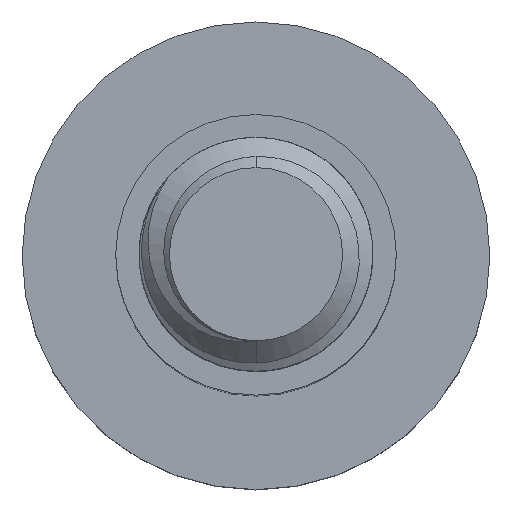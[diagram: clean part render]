
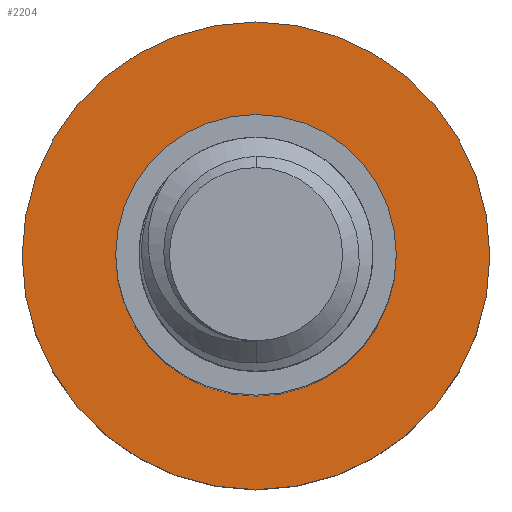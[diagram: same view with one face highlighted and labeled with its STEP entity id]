
A CAD part, top view. The second image highlights one B-rep face of the part: STEP entity #2204.
In plain terms, the highlighted planar face has unit normal (0, 0, 1).
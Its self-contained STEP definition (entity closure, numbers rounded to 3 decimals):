
#166 = CIRCLE ( 'NONE', #2971, 6. ) ;
#199 = CARTESIAN_POINT ( 'NONE',  ( 0., 0., -25. ) ) ;
#314 = CARTESIAN_POINT ( 'NONE',  ( 6., 0., -25. ) ) ;
#356 = EDGE_CURVE ( 'NONE', #3403, #755, #166, .T. ) ;
#372 = ORIENTED_EDGE ( 'NONE', *, *, #2839, .F. ) ;
#450 = VERTEX_POINT ( 'NONE', #1998 ) ;
#459 = CIRCLE ( 'NONE', #1138, 10. ) ;
#532 = FACE_OUTER_BOUND ( 'NONE', #1231, .T. ) ;
#560 = EDGE_CURVE ( 'NONE', #755, #3403, #1476, .T. ) ;
#581 = DIRECTION ( 'NONE',  ( 0., 0., -1. ) ) ;
#617 = DIRECTION ( 'NONE',  ( -1., 0., 0. ) ) ;
#684 = ORIENTED_EDGE ( 'NONE', *, *, #560, .T. ) ;
#755 = VERTEX_POINT ( 'NONE', #314 ) ;
#784 = DIRECTION ( 'NONE',  ( -1., 0., 0. ) ) ;
#858 = CARTESIAN_POINT ( 'NONE',  ( 0., 0., -25. ) ) ;
#910 = AXIS2_PLACEMENT_3D ( 'NONE', #199, #2455, #784 ) ;
#1136 = CARTESIAN_POINT ( 'NONE',  ( 0., 0., -25. ) ) ;
#1138 = AXIS2_PLACEMENT_3D ( 'NONE', #1463, #1979, #617 ) ;
#1231 = EDGE_LOOP ( 'NONE', ( #3172, #372 ) ) ;
#1288 = DIRECTION ( 'NONE',  ( 0., 0., -1. ) ) ;
#1463 = CARTESIAN_POINT ( 'NONE',  ( 0., 0., -25. ) ) ;
#1476 = CIRCLE ( 'NONE', #1927, 6. ) ;
#1555 = CARTESIAN_POINT ( 'NONE',  ( 0., 0., -25. ) ) ;
#1585 = PLANE ( 'NONE',  #910 ) ;
#1734 = DIRECTION ( 'NONE',  ( 0., 0., -1. ) ) ;
#1887 = ORIENTED_EDGE ( 'NONE', *, *, #356, .T. ) ;
#1927 = AXIS2_PLACEMENT_3D ( 'NONE', #1555, #1288, #1942 ) ;
#1942 = DIRECTION ( 'NONE',  ( -1., 0., 0. ) ) ;
#1979 = DIRECTION ( 'NONE',  ( 0., 0., -1. ) ) ;
#1998 = CARTESIAN_POINT ( 'NONE',  ( 10., 0., -25. ) ) ;
#2062 = CIRCLE ( 'NONE', #3554, 10. ) ;
#2084 = EDGE_LOOP ( 'NONE', ( #1887, #684 ) ) ;
#2185 = DIRECTION ( 'NONE',  ( -1., 0., 0. ) ) ;
#2204 = ADVANCED_FACE ( 'NONE', ( #3284, #532 ), #1585, .F. ) ;
#2283 = VERTEX_POINT ( 'NONE', #3498 ) ;
#2455 = DIRECTION ( 'NONE',  ( 0., 0., -1. ) ) ;
#2720 = CARTESIAN_POINT ( 'NONE',  ( -6., 0., -25. ) ) ;
#2839 = EDGE_CURVE ( 'NONE', #2283, #450, #459, .T. ) ;
#2971 = AXIS2_PLACEMENT_3D ( 'NONE', #1136, #581, #2185 ) ;
#3172 = ORIENTED_EDGE ( 'NONE', *, *, #3285, .F. ) ;
#3284 = FACE_BOUND ( 'NONE', #2084, .T. ) ;
#3285 = EDGE_CURVE ( 'NONE', #450, #2283, #2062, .T. ) ;
#3337 = DIRECTION ( 'NONE',  ( -1., 0., 0. ) ) ;
#3403 = VERTEX_POINT ( 'NONE', #2720 ) ;
#3498 = CARTESIAN_POINT ( 'NONE',  ( -10., 0., -25. ) ) ;
#3554 = AXIS2_PLACEMENT_3D ( 'NONE', #858, #1734, #3337 ) ;
